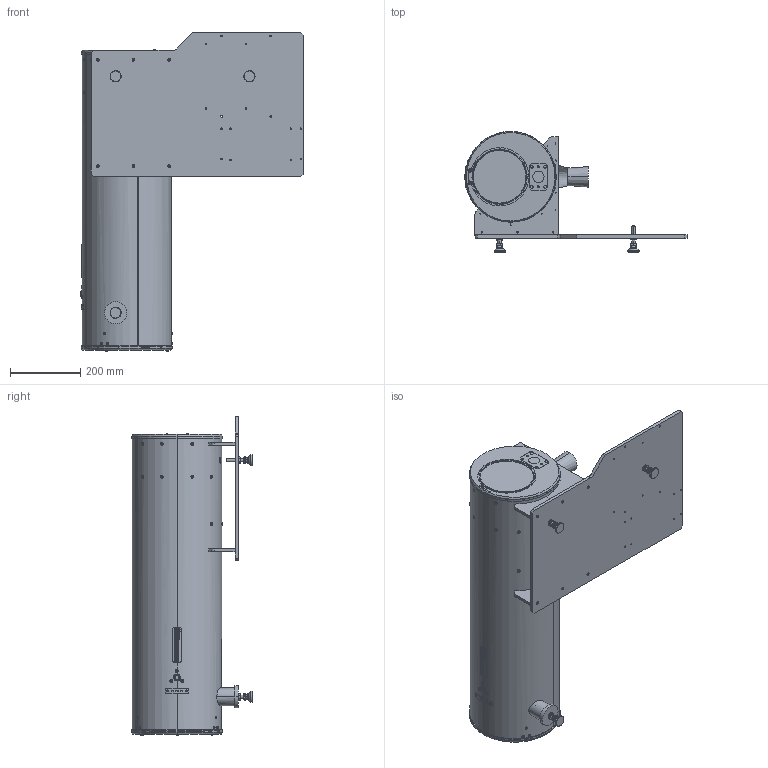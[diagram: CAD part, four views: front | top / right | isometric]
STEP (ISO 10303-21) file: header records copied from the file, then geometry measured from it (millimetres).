
FILE_DESCRIPTION (( 'STEP AP203' ), '1' );
FILE_NAME ('319-001-335_NC.STEP', '2014-09-29T20:10:48', ( '' ), ( '' ), 'SwSTEP 2.0', 'SolidWorks 2013', '' );
FILE_SCHEMA (( 'CONFIG_CONTROL_DESIGN' ));
Products named in the file (1): 319-001-335_NC
Bounding box: 631.83 x 344.04 x 906.28 mm (x, y, z)
Volume: 21760420 mm3; surface area: 2731104.3 mm2
Topology: 66 solids, 66 shells, 3310 faces, 8323 edges, 5372 vertices
Faces by surface type: plane 1583, bspline 695, cylinder 631, cone 259, torus 74, sphere 68
Entity records: 141181 total; most frequent: CARTESIAN_POINT 66206, ORIENTED_EDGE 16618, DIRECTION 13670, EDGE_CURVE 8309, VERTEX_POINT 5372, AXIS2_PLACEMENT_3D 4940, VECTOR 3790, LINE 3790
